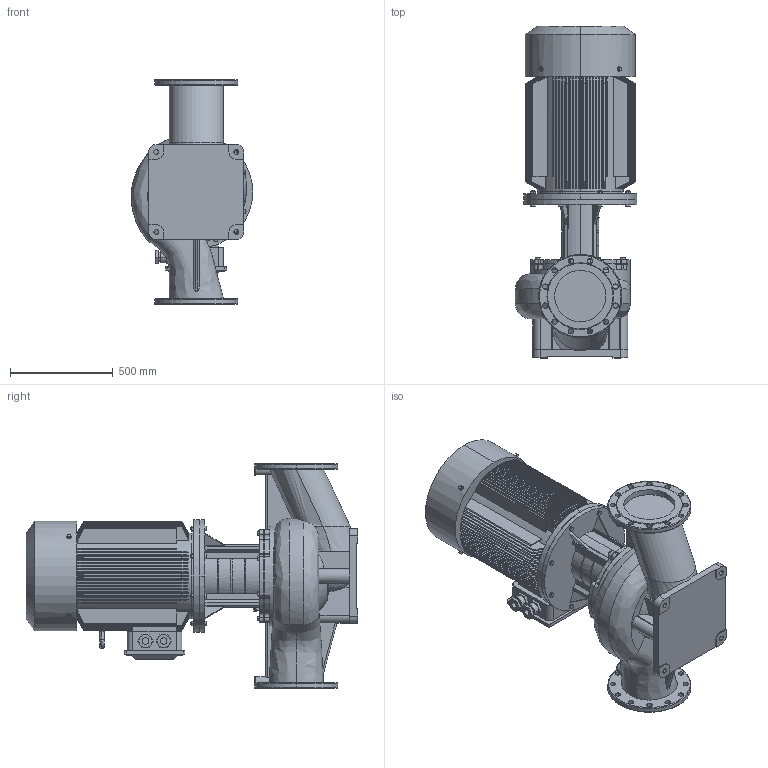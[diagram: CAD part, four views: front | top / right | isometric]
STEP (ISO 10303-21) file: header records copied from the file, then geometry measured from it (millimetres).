
FILE_DESCRIPTION (( 'STEP AP203' ), '1' );
FILE_NAME ('TD250-20G／4.STEP', '2026-09-07T03:19:33', ( '' ), ( '' ), 'SwSTEP 2.0', 'SolidWorks 2020', '' );
FILE_SCHEMA (( 'CONFIG_CONTROL_DESIGN' ));
Products named in the file (1): TD250-20Gㄞ4
Bounding box: 591.94 x 1615.5 x 1100 mm (x, y, z)
Volume: 299619776.6 mm3; surface area: 10018907.6 mm2
Topology: 1 solids, 13 shells, 1790 faces, 4529 edges, 2864 vertices
Faces by surface type: plane 774, cylinder 476, cone 442, torus 54, bspline 44
Entity records: 78774 total; most frequent: CARTESIAN_POINT 36620, ORIENTED_EDGE 9054, DIRECTION 8488, EDGE_CURVE 4527, AXIS2_PLACEMENT_3D 3374, VERTEX_POINT 2864, EDGE_LOOP 1967, FACE_OUTER_BOUND 1790
